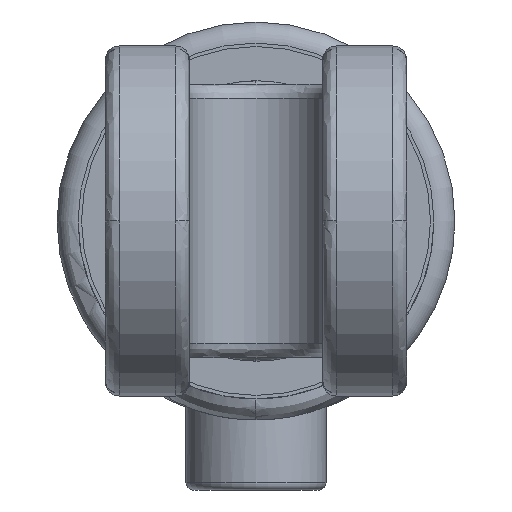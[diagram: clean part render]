
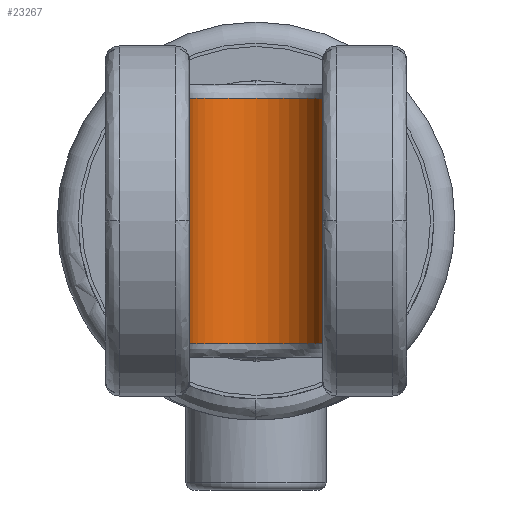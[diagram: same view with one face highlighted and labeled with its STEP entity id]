
A CAD part, left-side view. The second image highlights one B-rep face of the part: STEP entity #23267.
In plain terms, the highlighted cylindrical face has radius 9.5 mm (diameter 19 mm), a partial arc.
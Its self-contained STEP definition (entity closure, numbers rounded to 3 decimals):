
#1412 = VERTEX_POINT ( 'NONE', #3243 ) ;
#2097 = CARTESIAN_POINT ( 'NONE',  ( 0.293, 1.554, -19.5 ) ) ;
#2126 = CARTESIAN_POINT ( 'NONE',  ( 0.293, -17.446, -19.5 ) ) ;
#2484 = DIRECTION ( 'NONE',  ( 0., 0., -1. ) ) ;
#2810 = DIRECTION ( 'NONE',  ( 0., 0., 1. ) ) ;
#3243 = CARTESIAN_POINT ( 'NONE',  ( 0.293, 1.554, -17.5 ) ) ;
#3348 = CARTESIAN_POINT ( 'NONE',  ( 0.293, -17.446, -17.5 ) ) ;
#4142 = CARTESIAN_POINT ( 'NONE',  ( 0.293, 1.554, 17.5 ) ) ;
#4540 = ORIENTED_EDGE ( 'NONE', *, *, #21687, .F. ) ;
#5752 = VECTOR ( 'NONE', #13076, 1000. ) ;
#7154 = ORIENTED_EDGE ( 'NONE', *, *, #13161, .F. ) ;
#7415 = VERTEX_POINT ( 'NONE', #3348 ) ;
#9381 = FACE_OUTER_BOUND ( 'NONE', #13102, .T. ) ;
#10639 = VECTOR ( 'NONE', #13267, 1000. ) ;
#11107 = ORIENTED_EDGE ( 'NONE', *, *, #12766, .F. ) ;
#11795 = LINE ( 'NONE', #2126, #10639 ) ;
#12234 = VERTEX_POINT ( 'NONE', #4142 ) ;
#12290 = DIRECTION ( 'NONE',  ( 0., 0., 1. ) ) ;
#12522 = CIRCLE ( 'NONE', #21334, 9.5 ) ;
#12766 = EDGE_CURVE ( 'NONE', #7415, #23669, #11795, .T. ) ;
#13076 = DIRECTION ( 'NONE',  ( 0., 0., -1. ) ) ;
#13102 = EDGE_LOOP ( 'NONE', ( #11107, #4540, #7154, #23084 ) ) ;
#13161 = EDGE_CURVE ( 'NONE', #12234, #1412, #16079, .T. ) ;
#13267 = DIRECTION ( 'NONE',  ( 0., 0., 1. ) ) ;
#13453 = CARTESIAN_POINT ( 'NONE',  ( 0.293, -7.946, 17.5 ) ) ;
#13782 = CARTESIAN_POINT ( 'NONE',  ( 0.293, -7.946, -17.5 ) ) ;
#15281 = DIRECTION ( 'NONE',  ( 1., 0., 0. ) ) ;
#15615 = DIRECTION ( 'NONE',  ( 1., 0., 0. ) ) ;
#16079 = LINE ( 'NONE', #2097, #5752 ) ;
#17275 = CARTESIAN_POINT ( 'NONE',  ( 0.293, -17.446, 17.5 ) ) ;
#17786 = DIRECTION ( 'NONE',  ( 1., 0., 0. ) ) ;
#18544 = CIRCLE ( 'NONE', #18557, 9.5 ) ;
#18557 = AXIS2_PLACEMENT_3D ( 'NONE', #13782, #2810, #15615 ) ;
#20110 = AXIS2_PLACEMENT_3D ( 'NONE', #21482, #12290, #17786 ) ;
#21334 = AXIS2_PLACEMENT_3D ( 'NONE', #13453, #2484, #15281 ) ;
#21482 = CARTESIAN_POINT ( 'NONE',  ( 0.293, -7.946, -19.5 ) ) ;
#21687 = EDGE_CURVE ( 'NONE', #1412, #7415, #18544, .T. ) ;
#23084 = ORIENTED_EDGE ( 'NONE', *, *, #23560, .F. ) ;
#23267 = ADVANCED_FACE ( 'NONE', ( #9381 ), #23413, .F. ) ;
#23413 = CYLINDRICAL_SURFACE ( 'NONE', #20110, 9.5 ) ;
#23560 = EDGE_CURVE ( 'NONE', #23669, #12234, #12522, .T. ) ;
#23669 = VERTEX_POINT ( 'NONE', #17275 ) ;
